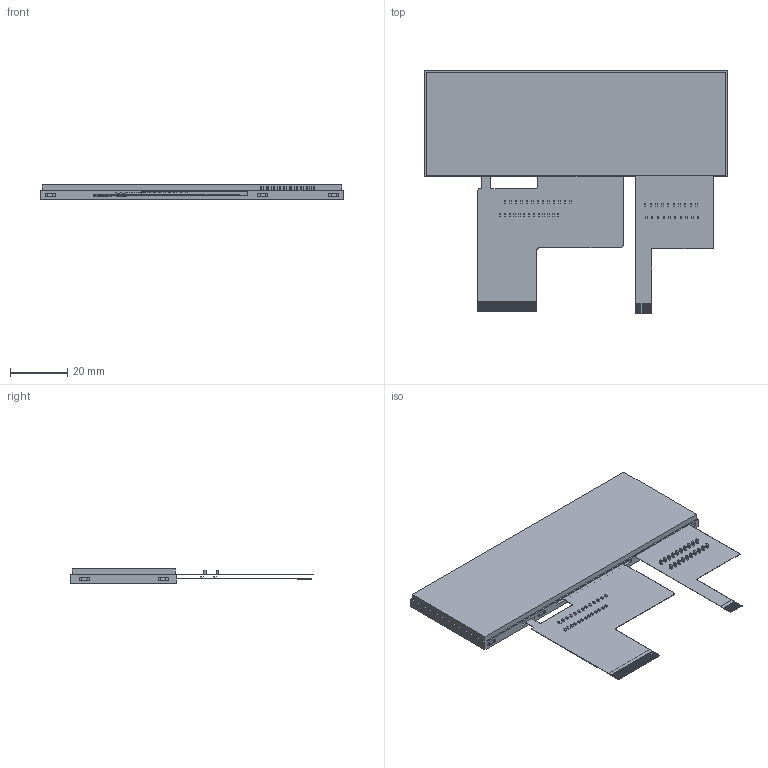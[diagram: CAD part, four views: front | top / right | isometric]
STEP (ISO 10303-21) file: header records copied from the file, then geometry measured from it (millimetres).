
FILE_DESCRIPTION (( 'STEP AP214' ), '1' );
FILE_NAME ('CFAF480128A0-039TC.STEP', '2020-02-07T00:29:20', ( '' ), ( '' ), 'SwSTEP 2.0', 'SolidWorks 2015', '' );
FILE_SCHEMA (( 'AUTOMOTIVE_DESIGN' ));
Length unit declared in the file: millimetre
Products named in the file (1): CFAF480128A0-039TC
Bounding box: 105.5 x 84.69 x 5.13 mm (x, y, z)
Volume: 20032.5 mm3; surface area: 22090.7 mm2
Topology: 4 solids, 4 shells, 616 faces, 1616 edges, 1080 vertices
Faces by surface type: plane 579, cylinder 37
Entity records: 24298 total; most frequent: CARTESIAN_POINT 3445, ORIENTED_EDGE 3232, DIRECTION 2836, EDGE_CURVE 1616, LINE 1542, VECTOR 1542, VERTEX_POINT 1080, EDGE_LOOP 688
